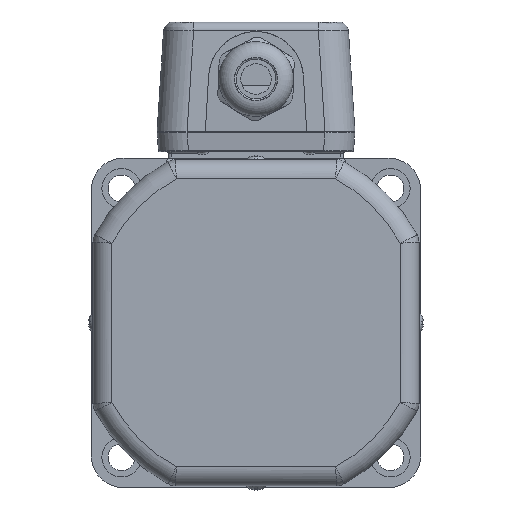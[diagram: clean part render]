
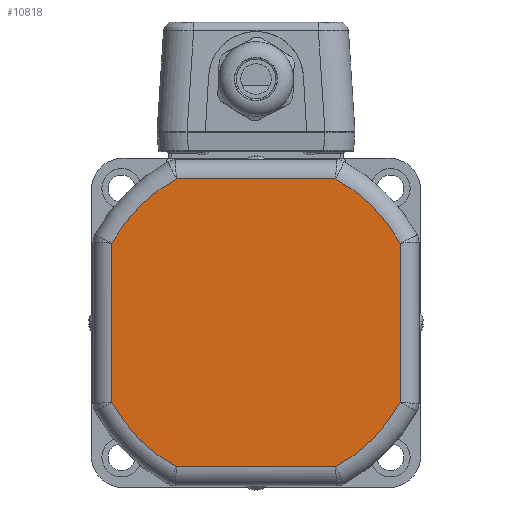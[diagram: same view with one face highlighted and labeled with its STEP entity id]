
A CAD part, left-side view. The second image highlights one B-rep face of the part: STEP entity #10818.
In plain terms, the highlighted planar face has unit normal (-1, 0, 0).
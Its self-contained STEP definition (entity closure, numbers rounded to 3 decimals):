
#9374=CARTESIAN_POINT('',(-20.,25.174,45.5));
#9375=VERTEX_POINT('',#9374);
#9425=CARTESIAN_POINT('',(-20.,45.5,25.174));
#9426=VERTEX_POINT('',#9425);
#9455=CARTESIAN_POINT('',(-20.,0.,0.));
#9456=DIRECTION('',(1.0,0.0,0.0));
#9457=DIRECTION('',(0.0,0.707,0.707));
#9458=AXIS2_PLACEMENT_3D('',#9455,#9456,#9457);
#9459=CIRCLE('',#9458,52.);
#9460=EDGE_CURVE('',#9426,#9375,#9459,.T.);
#9603=CARTESIAN_POINT('',(-20.,45.5,-25.174));
#9604=VERTEX_POINT('',#9603);
#9620=CARTESIAN_POINT('',(-20.,45.5,-25.174));
#9621=DIRECTION('',(0.0,0.0,1.0));
#9622=VECTOR('',#9621,50.349);
#9623=LINE('',#9620,#9622);
#9624=EDGE_CURVE('',#9604,#9426,#9623,.T.);
#9766=CARTESIAN_POINT('',(-20.,25.174,-45.5));
#9767=VERTEX_POINT('',#9766);
#9783=CARTESIAN_POINT('',(-20.,0.,0.));
#9784=DIRECTION('',(1.0,0.0,0.0));
#9785=DIRECTION('',(0.0,0.707,-0.707));
#9786=AXIS2_PLACEMENT_3D('',#9783,#9784,#9785);
#9787=CIRCLE('',#9786,52.);
#9788=EDGE_CURVE('',#9767,#9604,#9787,.T.);
#9918=CARTESIAN_POINT('',(-20.,-25.174,-45.5));
#9919=VERTEX_POINT('',#9918);
#9948=CARTESIAN_POINT('',(-20.,-25.174,-45.5));
#9949=DIRECTION('',(0.0,1.0,0.0));
#9950=VECTOR('',#9949,50.349);
#9951=LINE('',#9948,#9950);
#9952=EDGE_CURVE('',#9919,#9767,#9951,.T.);
#10168=CARTESIAN_POINT('',(-20.,-45.5,-25.174));
#10169=VERTEX_POINT('',#10168);
#10235=CARTESIAN_POINT('',(-20.,0.,0.));
#10236=DIRECTION('',(1.0,0.0,0.0));
#10237=DIRECTION('',(0.0,-0.707,-0.707));
#10238=AXIS2_PLACEMENT_3D('',#10235,#10236,#10237);
#10239=CIRCLE('',#10238,52.);
#10240=EDGE_CURVE('',#10169,#9919,#10239,.T.);
#10259=CARTESIAN_POINT('',(-20.,-45.5,25.174));
#10260=VERTEX_POINT('',#10259);
#10276=CARTESIAN_POINT('',(-20.,-45.5,25.174));
#10277=DIRECTION('',(0.0,0.0,-1.0));
#10278=VECTOR('',#10277,50.349);
#10279=LINE('',#10276,#10278);
#10280=EDGE_CURVE('',#10260,#10169,#10279,.T.);
#10399=CARTESIAN_POINT('',(-20.,-25.174,45.5));
#10400=VERTEX_POINT('',#10399);
#10415=CARTESIAN_POINT('',(-20.,0.,0.));
#10416=DIRECTION('',(1.0,0.0,0.0));
#10417=DIRECTION('',(0.0,-0.707,0.707));
#10418=AXIS2_PLACEMENT_3D('',#10415,#10416,#10417);
#10419=CIRCLE('',#10418,52.);
#10420=EDGE_CURVE('',#10400,#10260,#10419,.T.);
#10548=CARTESIAN_POINT('',(-20.,25.174,45.5));
#10549=DIRECTION('',(0.0,-1.0,0.0));
#10550=VECTOR('',#10549,50.349);
#10551=LINE('',#10548,#10550);
#10552=EDGE_CURVE('',#9375,#10400,#10551,.T.);
#10803=CARTESIAN_POINT('',(-20.,0.,0.));
#10804=DIRECTION('',(-1.0,0.0,0.0));
#10805=DIRECTION('',(0.0,0.0,1.0));
#10806=AXIS2_PLACEMENT_3D('',#10803,#10804,#10805);
#10807=PLANE('',#10806);
#10808=ORIENTED_EDGE('',*,*,#10552,.F.);
#10809=ORIENTED_EDGE('',*,*,#9460,.F.);
#10810=ORIENTED_EDGE('',*,*,#9624,.F.);
#10811=ORIENTED_EDGE('',*,*,#9788,.F.);
#10812=ORIENTED_EDGE('',*,*,#9952,.F.);
#10813=ORIENTED_EDGE('',*,*,#10240,.F.);
#10814=ORIENTED_EDGE('',*,*,#10280,.F.);
#10815=ORIENTED_EDGE('',*,*,#10420,.F.);
#10816=EDGE_LOOP('',(#10808,#10809,#10810,#10811,#10812,#10813,#10814,#10815));
#10817=FACE_OUTER_BOUND('',#10816,.T.);
#10818=ADVANCED_FACE('',(#10817),#10807,.T.);
